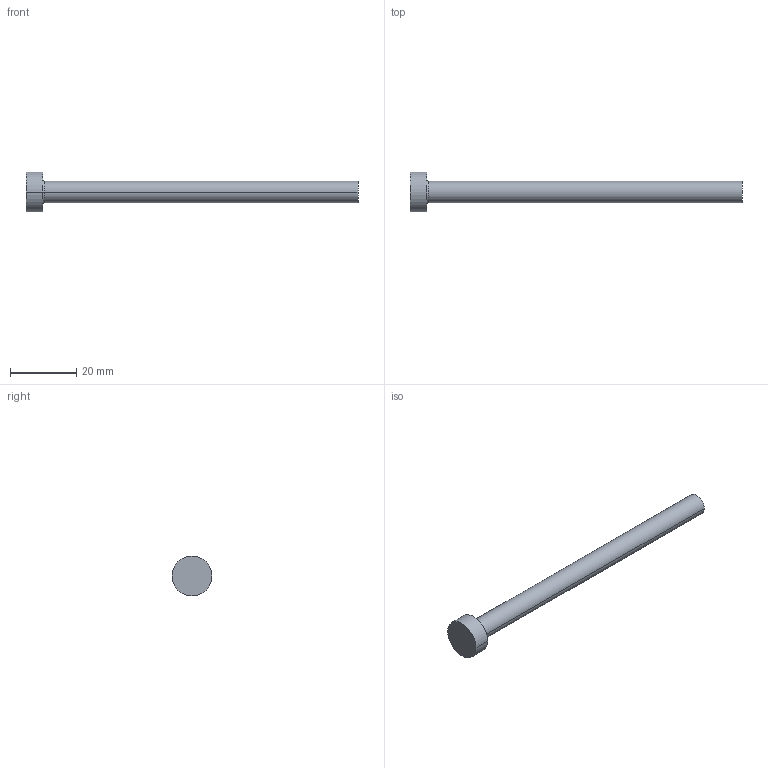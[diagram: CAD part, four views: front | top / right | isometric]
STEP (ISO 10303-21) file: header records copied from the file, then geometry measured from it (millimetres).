
FILE_DESCRIPTION (( 'STEP AP214' ), '1' );
FILE_NAME ('A-6,5x100.STEP', '2020-05-29T15:38:15', ( 'August' ), ( '' ), 'SwSTEP 2.0', 'SolidWorks 2018', '' );
FILE_SCHEMA (( 'AUTOMOTIVE_DESIGN' ));
Length unit declared in the file: millimetre
Products named in the file (1): A-6,5x100
Bounding box: 100 x 12 x 12 mm (x, y, z)
Volume: 3719 mm3; surface area: 2350.4 mm2
Topology: 1 solids, 1 shells, 9 faces, 16 edges, 10 vertices
Faces by surface type: cylinder 4, plane 3, torus 2
Entity records: 260 total; most frequent: DIRECTION 48, CARTESIAN_POINT 36, ORIENTED_EDGE 32, AXIS2_PLACEMENT_3D 22, EDGE_CURVE 16, CIRCLE 12, EDGE_LOOP 10, VERTEX_POINT 10
